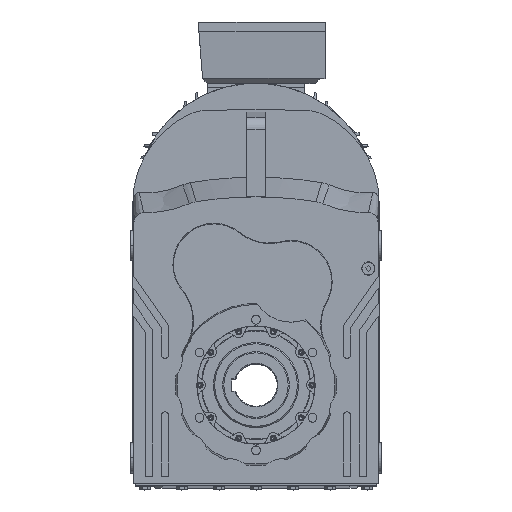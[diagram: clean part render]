
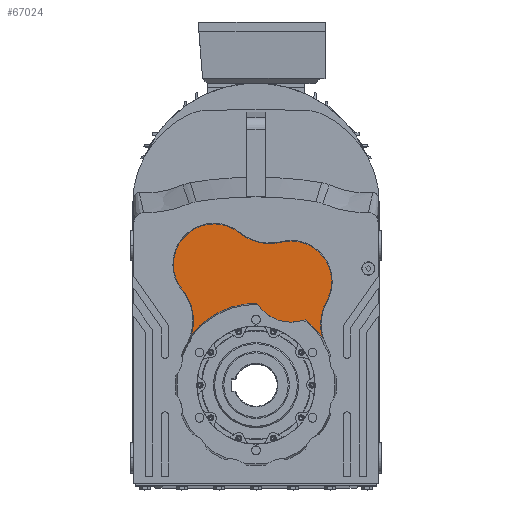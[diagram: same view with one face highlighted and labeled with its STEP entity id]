
A CAD part, top view. The second image highlights one B-rep face of the part: STEP entity #67024.
In plain terms, the highlighted planar face has unit normal (0, 0, 1).
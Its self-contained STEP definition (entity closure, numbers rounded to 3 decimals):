
#18311 = VERTEX_POINT ( 'NONE', #20460 ) ;
#18315 = VERTEX_POINT ( 'NONE', #20381 ) ;
#18324 = VERTEX_POINT ( 'NONE', #20389 ) ;
#18508 = VERTEX_POINT ( 'NONE', #20652 ) ;
#18531 = VERTEX_POINT ( 'NONE', #20730 ) ;
#18621 = VERTEX_POINT ( 'NONE', #20874 ) ;
#20381 = CARTESIAN_POINT ( 'NONE',  ( 109.644, 78.115, 251. ) ) ;
#20389 = CARTESIAN_POINT ( 'NONE',  ( -26.879, 250.552, 251. ) ) ;
#20460 = CARTESIAN_POINT ( 'NONE',  ( -106.885, 81.85, 251. ) ) ;
#20652 = CARTESIAN_POINT ( 'NONE',  ( 1.305, 134.618, 251. ) ) ;
#20730 = CARTESIAN_POINT ( 'NONE',  ( 80.807, 107.675, 251. ) ) ;
#20874 = CARTESIAN_POINT ( 'NONE',  ( 116.272, 138.035, 251. ) ) ;
#21297 = PLANE ( 'NONE',  #67881 ) ;
#21299 = DIRECTION ( 'NONE',  ( 1., 0., 0. ) ) ;
#21351 = DIRECTION ( 'NONE',  ( 0., 0., 1. ) ) ;
#21372 = CARTESIAN_POINT ( 'NONE',  ( 40.113, 240.793, 251. ) ) ;
#25968 = EDGE_CURVE ( 'NONE', #62390, #62405, #72988, .T. ) ;
#25973 = EDGE_CURVE ( 'NONE', #62299, #62343, #72936, .T. ) ;
#25975 = EDGE_CURVE ( 'NONE', #62390, #62399, #72969, .T. ) ;
#26086 = EDGE_CURVE ( 'NONE', #18508, #18531, #72955, .T. ) ;
#26120 = EDGE_CURVE ( 'NONE', #18315, #18621, #87341, .T. ) ;
#26168 = EDGE_CURVE ( 'NONE', #62299, #18324, #87441, .T. ) ;
#26195 = EDGE_CURVE ( 'NONE', #62405, #18324, #87617, .T. ) ;
#26197 = EDGE_CURVE ( 'NONE', #18531, #18315, #87576, .T. ) ;
#26212 = EDGE_CURVE ( 'NONE', #18508, #18311, #87602, .T. ) ;
#26237 = EDGE_CURVE ( 'NONE', #62399, #18311, #87652, .T. ) ;
#26243 = EDGE_CURVE ( 'NONE', #62343, #18621, #87646, .T. ) ;
#28383 = CARTESIAN_POINT ( 'NONE',  ( -69.128, 198.691, 251. ) ) ;
#28386 = DIRECTION ( 'NONE',  ( 0., 0., -1. ) ) ;
#28390 = DIRECTION ( 'NONE',  ( 0., 0., -1. ) ) ;
#28401 = DIRECTION ( 'NONE',  ( 0., 1., 0. ) ) ;
#28414 = CARTESIAN_POINT ( 'NONE',  ( 57.773, 170.477, 251. ) ) ;
#28424 = DIRECTION ( 'NONE',  ( 0., 1., 0. ) ) ;
#28439 = DIRECTION ( 'NONE',  ( 0., 0., -1. ) ) ;
#28446 = DIRECTION ( 'NONE',  ( 1., 0., 0. ) ) ;
#28448 = CARTESIAN_POINT ( 'NONE',  ( -181.014, 106.46, 251. ) ) ;
#51408 = CARTESIAN_POINT ( 'NONE',  ( 57.773, 237.368, 251. ) ) ;
#51433 = CARTESIAN_POINT ( 'NONE',  ( 41.479, 235.354, 251. ) ) ;
#51522 = CARTESIAN_POINT ( 'NONE',  ( -120.744, 156.143, 251. ) ) ;
#51544 = CARTESIAN_POINT ( 'NONE',  ( -69.128, 265.583, 251. ) ) ;
#51585 = CARTESIAN_POINT ( 'NONE',  ( -102.906, 106.46, 251. ) ) ;
#53894 = EDGE_LOOP ( 'NONE', ( #66018, #65996, #65963, #65994, #66044, #65921, #65980, #65989, #65925, #65962, #66005 ) ) ;
#61661 = FACE_OUTER_BOUND ( 'NONE', #53894, .T. ) ;
#62299 = VERTEX_POINT ( 'NONE', #51433 ) ;
#62343 = VERTEX_POINT ( 'NONE', #51408 ) ;
#62390 = VERTEX_POINT ( 'NONE', #51522 ) ;
#62399 = VERTEX_POINT ( 'NONE', #51585 ) ;
#62405 = VERTEX_POINT ( 'NONE', #51544 ) ;
#65921 = ORIENTED_EDGE ( 'NONE', *, *, #26120, .T. ) ;
#65925 = ORIENTED_EDGE ( 'NONE', *, *, #26168, .T. ) ;
#65962 = ORIENTED_EDGE ( 'NONE', *, *, #26195, .F. ) ;
#65963 = ORIENTED_EDGE ( 'NONE', *, *, #26212, .F. ) ;
#65980 = ORIENTED_EDGE ( 'NONE', *, *, #26243, .F. ) ;
#65989 = ORIENTED_EDGE ( 'NONE', *, *, #25973, .F. ) ;
#65994 = ORIENTED_EDGE ( 'NONE', *, *, #26086, .T. ) ;
#65996 = ORIENTED_EDGE ( 'NONE', *, *, #26237, .T. ) ;
#66005 = ORIENTED_EDGE ( 'NONE', *, *, #25968, .F. ) ;
#66018 = ORIENTED_EDGE ( 'NONE', *, *, #25975, .T. ) ;
#66044 = ORIENTED_EDGE ( 'NONE', *, *, #26197, .T. ) ;
#67024 = ADVANCED_FACE ( 'NONE', ( #61661 ), #21297, .T. ) ;
#67881 = AXIS2_PLACEMENT_3D ( 'NONE', #21372, #21351, #21299 ) ;
#68208 = AXIS2_PLACEMENT_3D ( 'NONE', #28448, #28439, #28446 ) ;
#68233 = AXIS2_PLACEMENT_3D ( 'NONE', #28414, #28386, #28424 ) ;
#68250 = AXIS2_PLACEMENT_3D ( 'NONE', #28383, #28390, #28401 ) ;
#68384 = AXIS2_PLACEMENT_3D ( 'NONE', #80482, #80471, #80485 ) ;
#68448 = AXIS2_PLACEMENT_3D ( 'NONE', #80607, #80611, #80578 ) ;
#68488 = AXIS2_PLACEMENT_3D ( 'NONE', #80700, #80728, #80698 ) ;
#68519 = AXIS2_PLACEMENT_3D ( 'NONE', #80852, #80849, #80830 ) ;
#68527 = AXIS2_PLACEMENT_3D ( 'NONE', #80774, #80786, #80782 ) ;
#68542 = AXIS2_PLACEMENT_3D ( 'NONE', #79621, #79595, #79627 ) ;
#68576 = AXIS2_PLACEMENT_3D ( 'NONE', #79671, #79592, #79648 ) ;
#68623 = AXIS2_PLACEMENT_3D ( 'NONE', #80785, #80798, #80773 ) ;
#72936 = CIRCLE ( 'NONE', #68233, 66.892 ) ;
#72955 = CIRCLE ( 'NONE', #68384, 66.892 ) ;
#72969 = CIRCLE ( 'NONE', #68208, 78.108 ) ;
#72988 = CIRCLE ( 'NONE', #68250, 66.892 ) ;
#79592 = DIRECTION ( 'NONE',  ( 0., 0., -1. ) ) ;
#79595 = DIRECTION ( 'NONE',  ( 0., 0., -1. ) ) ;
#79621 = CARTESIAN_POINT ( 'NONE',  ( -181.014, 106.46, 251. ) ) ;
#79627 = DIRECTION ( 'NONE',  ( 1., 0., 0. ) ) ;
#79648 = DIRECTION ( 'NONE',  ( 0., 1., 0. ) ) ;
#79671 = CARTESIAN_POINT ( 'NONE',  ( 57.773, 170.477, 251. ) ) ;
#80471 = DIRECTION ( 'NONE',  ( 0., 0., 1. ) ) ;
#80482 = CARTESIAN_POINT ( 'NONE',  ( 57.773, 170.477, 251. ) ) ;
#80485 = DIRECTION ( 'NONE',  ( -1., 0., 0. ) ) ;
#80578 = DIRECTION ( 'NONE',  ( 0., -1., 0. ) ) ;
#80607 = CARTESIAN_POINT ( 'NONE',  ( 184.579, 100.153, 251. ) ) ;
#80611 = DIRECTION ( 'NONE',  ( 0., 0., -1. ) ) ;
#80698 = DIRECTION ( 'NONE',  ( 1., 0., 0. ) ) ;
#80700 = CARTESIAN_POINT ( 'NONE',  ( 22.453, 311.109, 251. ) ) ;
#80728 = DIRECTION ( 'NONE',  ( 0., 0., -1. ) ) ;
#80773 = DIRECTION ( 'NONE',  ( 0., 1., 0. ) ) ;
#80774 = CARTESIAN_POINT ( 'NONE',  ( 0., 0., 251. ) ) ;
#80782 = DIRECTION ( 'NONE',  ( -1., 0., 0. ) ) ;
#80785 = CARTESIAN_POINT ( 'NONE',  ( -69.128, 198.691, 251. ) ) ;
#80786 = DIRECTION ( 'NONE',  ( 0., 0., -1. ) ) ;
#80798 = DIRECTION ( 'NONE',  ( 0., 0., -1. ) ) ;
#80830 = DIRECTION ( 'NONE',  ( -1., 0., 0. ) ) ;
#80849 = DIRECTION ( 'NONE',  ( 0., 0., 1. ) ) ;
#80852 = CARTESIAN_POINT ( 'NONE',  ( 0., 0., 251. ) ) ;
#87341 = CIRCLE ( 'NONE', #68448, 78.108 ) ;
#87441 = CIRCLE ( 'NONE', #68488, 78.108 ) ;
#87576 = CIRCLE ( 'NONE', #68527, 134.625 ) ;
#87602 = CIRCLE ( 'NONE', #68519, 134.625 ) ;
#87617 = CIRCLE ( 'NONE', #68623, 66.892 ) ;
#87646 = CIRCLE ( 'NONE', #68576, 66.892 ) ;
#87652 = CIRCLE ( 'NONE', #68542, 78.108 ) ;
